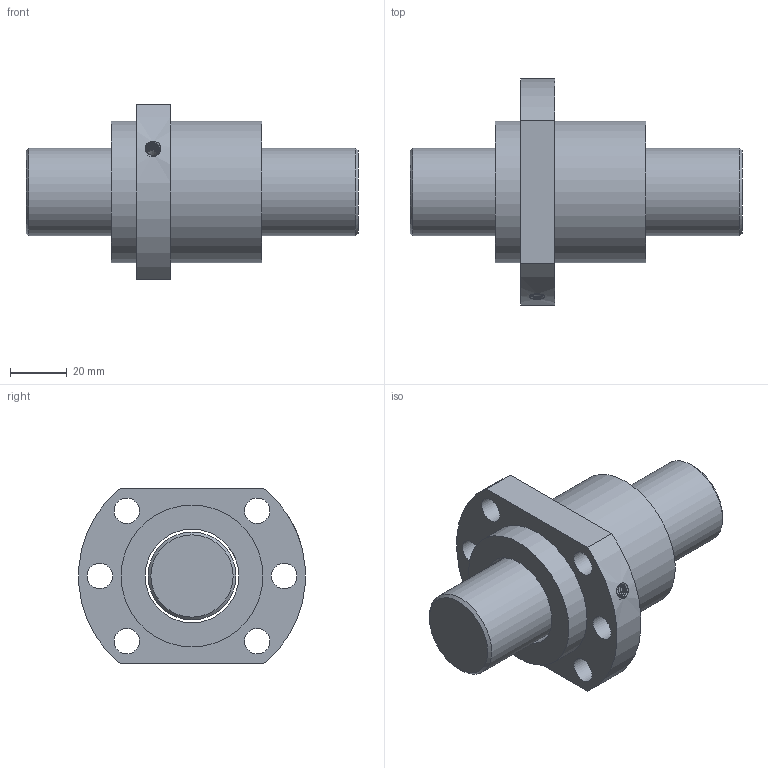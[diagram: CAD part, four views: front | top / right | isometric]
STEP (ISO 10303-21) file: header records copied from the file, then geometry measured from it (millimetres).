
FILE_DESCRIPTION(/* description */ ('Unknown','CAx-IF Rec.Pracs.---Representation and Presentation of Product Manufacturing Information (PMI)---4.0---2014-10-13','CAx-IF Rec.Pracs.---3D Tessellated Geometry---0.4---2014-09-14','2;1'),/* implementation_level */ '2;1');
FILE_NAME(/* name */ 'SFA3210-3.8',/* time_stamp */ '2020-12-08T08:55:49+08:00',/* author */ ('Unknown'),/* organization */ ('Unknown'),/* preprocessor_version */ 'ST-DEVELOPER v16.7',/* originating_system */ 'Solid Edge',/* authorisation */ 'Unknown');
FILE_SCHEMA (('AP242_MANAGED_MODEL_BASED_3D_ENGINEERING_MIM_LF { 1 0 10303 442 1 1 4 }'));
Length unit declared in the file: millimetre
Products named in the file (1): SFA3210-3.8
Bounding box: 117 x 79.74 x 62 mm (x, y, z)
Volume: 171363.9 mm3; surface area: 36343.8 mm2
Topology: 2 solids, 2 shells, 30 faces, 69 edges, 45 vertices
Faces by surface type: cylinder 16, plane 9, cone 3, bspline 2
Full cylindrical faces by diameter (mm): 3 x1, 4.917 x1, 9 x6, 31 x1, 33 x1, 50 x2
Entity records: 2933 total; most frequent: CARTESIAN_POINT 2231, DIRECTION 134, ORIENTED_EDGE 100, AXIS2_PLACEMENT_3D 64, EDGE_LOOP 63, FACE_BOUND 63, EDGE_CURVE 50, VERTEX_POINT 41
